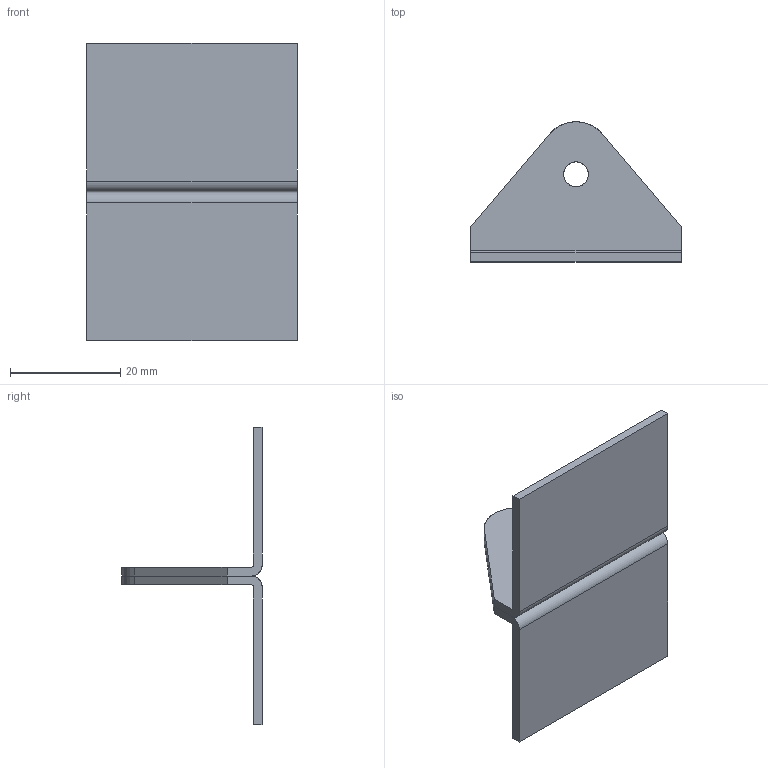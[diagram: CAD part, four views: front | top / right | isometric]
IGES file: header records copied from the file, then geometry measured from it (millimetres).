
Start section: SolidWorks IGES file using analytic representation for surfaces
Global section: file name: C:\Working\.5 Inch Coupling\DRP-002-0112-00.IGS; native system: SolidWorks 2010; preprocessor: SolidWorks 2010; author: mbush2; date: 100812.132958; units: inch
Bounding box: 38.1 x 25.4 x 53.85 mm (x, y, z)
Surface area: 6892.8 mm2 (no closed solid volume)
Topology: 0 solids, 0 shells, 28 faces, 332 edges, 332 vertices
Faces by surface type: bspline 18, revolution 10
